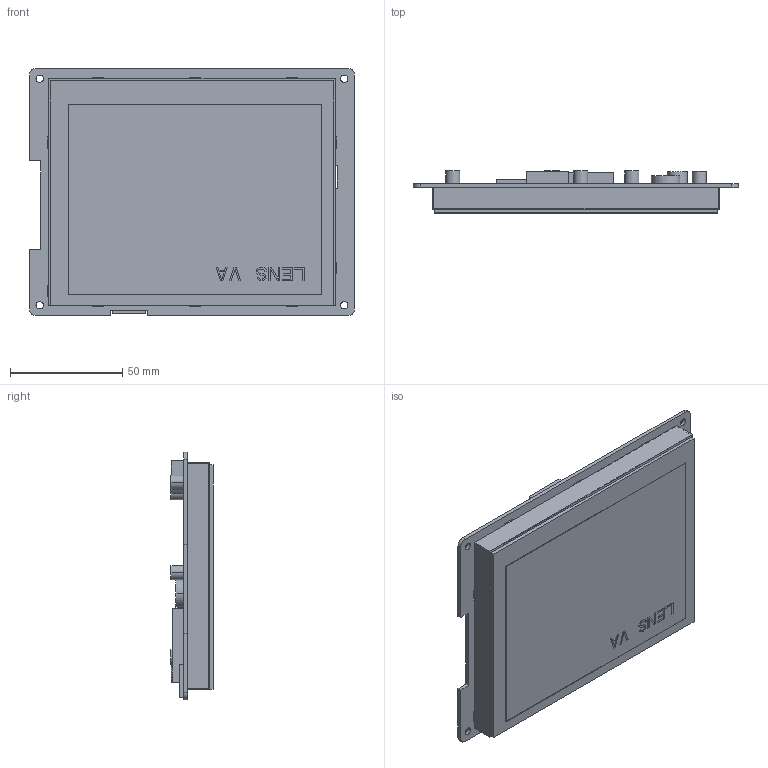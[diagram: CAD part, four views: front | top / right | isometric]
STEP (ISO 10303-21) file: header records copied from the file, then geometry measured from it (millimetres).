
FILE_DESCRIPTION((''),'2;1');
FILE_NAME('DMG64480T056-01WTR_ASM','2021-10-31T',('Administrator'),(''),'PRO/ENGINEER BY PARAMETRIC TECHNOLOGY CORPORATION, 2014320','PRO/ENGINEER BY PARAMETRIC TECHNOLOGY CORPORATION, 2014320','');
FILE_SCHEMA(('CONFIG_CONTROL_DESIGN'));
Length unit declared in the file: millimetre
Products named in the file (5): TK056004; AT056TN52; CTP1; PCB1; DMG64480T056-01WTR_ASM
Assembly tree (4 placements, depth 2):
  DMG64480T056-01WTR_ASM
    TK056004
    AT056TN52
    CTP1
    PCB1
Bounding box: 144.78 x 18.73 x 110.24 mm (x, y, z)
Volume: 126395.5 mm3; surface area: 103294.3 mm2
Topology: 4 solids, 4 shells, 286 faces, 760 edges, 506 vertices
Faces by surface type: plane 258, cylinder 28
Entity records: 8941 total; most frequent: CARTESIAN_POINT 1561, ORIENTED_EDGE 1520, DIRECTION 1406, EDGE_CURVE 760, VECTOR 704, LINE 704, VERTEX_POINT 506, AXIS2_PLACEMENT_3D 351
